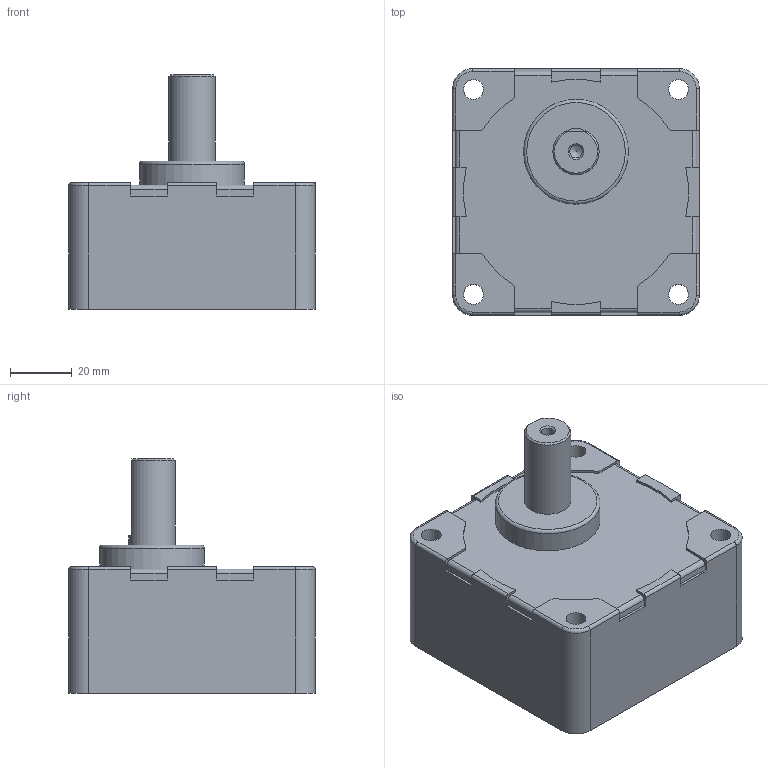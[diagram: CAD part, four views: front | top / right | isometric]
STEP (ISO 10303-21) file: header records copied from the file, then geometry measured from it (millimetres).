
FILE_DESCRIPTION(/* description */ (''),/* implementation_level */ '2;1');
FILE_NAME(/* name */ 'E:\도면작업\2016\0704) 미주향 SG 도면\3D GEAR HEAD\SG8DA5~25.stp',/* time_stamp */ '2016-07-22T14:02:36+09:00',/* author */ ('jy-jung'),/* organization */ (''),/* preprocessor_version */ 'ST-DEVELOPER v15.6',/* originating_system */ 'Autodesk Inventor 2015',/* authorisation */ '');
FILE_SCHEMA (('AUTOMOTIVE_DESIGN { 1 0 10303 214 3 1 1 }'));
Length unit declared in the file: millimetre
Products named in the file (1): SG8DA5~25
Bounding box: 80 x 80 x 76 mm (x, y, z)
Volume: 252450.4 mm3; surface area: 31587.6 mm2
Topology: 1 solids, 1 shells, 102 faces, 275 edges, 179 vertices
Faces by surface type: plane 52, cylinder 40, cone 5, torus 5
Full cylindrical faces by diameter (mm): 4.134 x1, 6.5 x4, 7.5 x1, 15 x1, 34 x1, 73 x1
Entity records: 3155 total; most frequent: DIRECTION 553, CARTESIAN_POINT 543, ORIENTED_EDGE 518, EDGE_CURVE 259, AXIS2_PLACEMENT_3D 193, VERTEX_POINT 177, LINE 167, VECTOR 167
